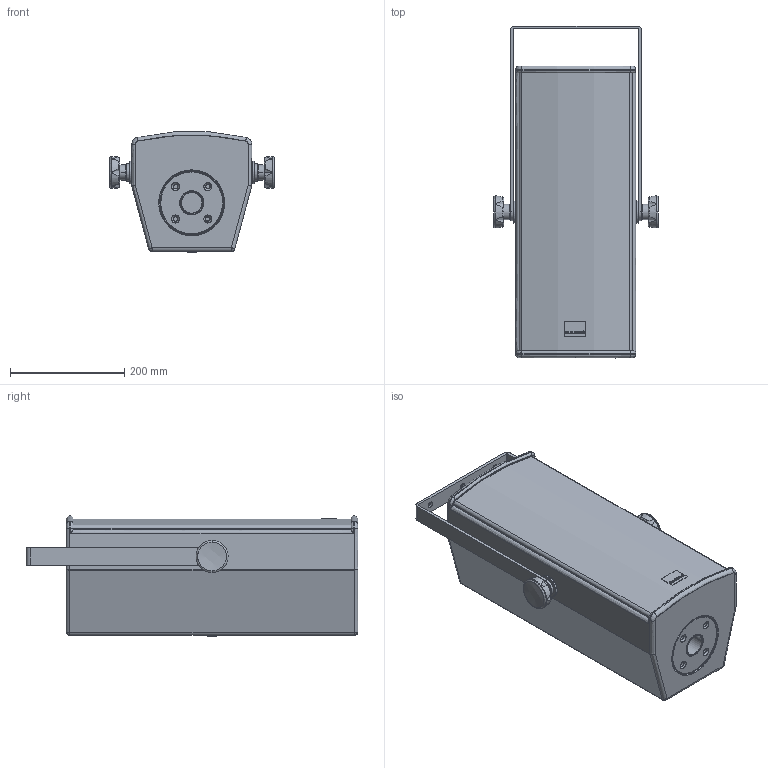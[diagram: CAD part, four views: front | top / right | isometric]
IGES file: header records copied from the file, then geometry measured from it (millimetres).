
Start section: SolidWorks IGES file using analytic representation for surfaces
Global section: file name: C:\Dokumente und Einstellungen\PC_Fabian\Desktop\3d_Dateien_Homepage\A-Serie\SEEBURG_A2_Bracket-ver.IGS; native system: SolidWorks 2009; preprocessor: SolidWorks 2009; author: PC_Fabian; date: 120927.153137; units: millimetre
Bounding box: 288 x 580 x 209.8 mm (x, y, z)
Surface area: 1217144.4 mm2 (no closed solid volume)
Topology: 0 solids, 0 shells, 531 faces, 7803 edges, 7801 vertices
Faces by surface type: revolution 282, bspline 249
